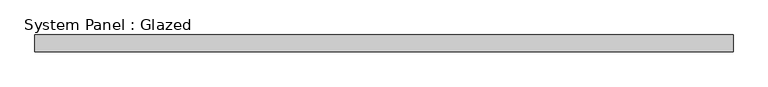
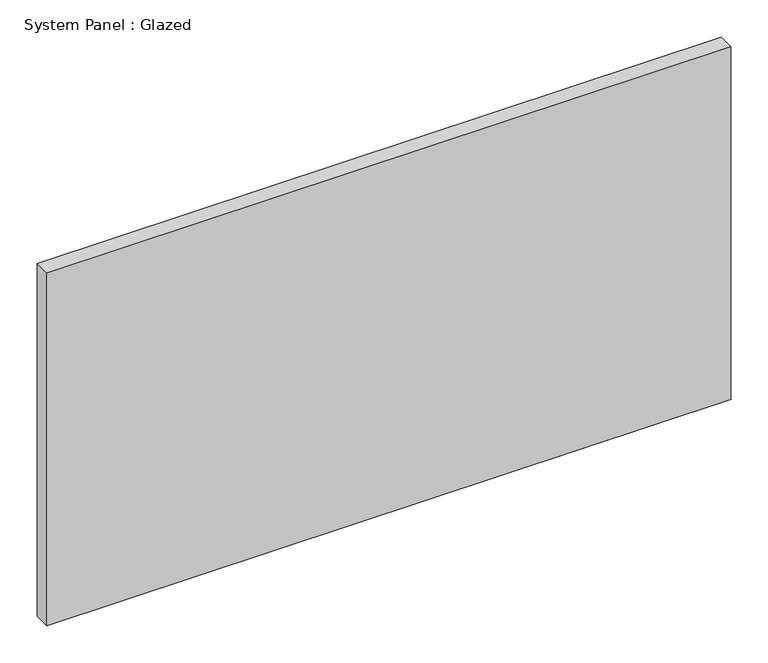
"""IFC4 building model written with IfcOpenShell, lengths in millimetres: plate geometry, System Panel : Glazed."""

from ifc_helpers import new_model, si_unit, origin, origin_with_axes, place, context, project, spatial, polyline, outline, extrude, source, transform, mapped, element, save


def system_panel_glazed_9d1674b2(model_context):
    return source(origin(), model_context, "Body", "SweptSolid", [
        extrude(outline(polyline([(529.544643, 19.05), (-529.544643, 19.05), (-529.544643, 44.45), (529.544643, 44.45), (529.544643, 19.05)])), origin_with_axes(), (0.0, 0.0, 1.0), 577.85),
    ])


if __name__ == "__main__":
    model = new_model("IFC4")
    model_context = context("Model", 3, world=origin())
    ifc_project = project(units=[si_unit("LENGTHUNIT", "METRE", prefix="MILLI")], contexts=[model_context])
    site = spatial("IfcSite", under=ifc_project)
    building = spatial("IfcBuilding", under=site)
    placement = place(None, origin())
    system_panel_glazed_shape = system_panel_glazed_9d1674b2(model_context)
    element("IfcPlate", 1, ObjectType="System Panel : Glazed", at=placement, inside=building, context=model_context, shape_type="MappedRepresentation", body=[
        mapped(system_panel_glazed_shape, transform((0.0, 0.0, 0.0), x_axis=(1.0, 0.0, 0.0), y_axis=(0.0, 1.0, 0.0), z_axis=(0.0, 0.0, 1.0))),
    ])
    save(model, "model.ifc")
